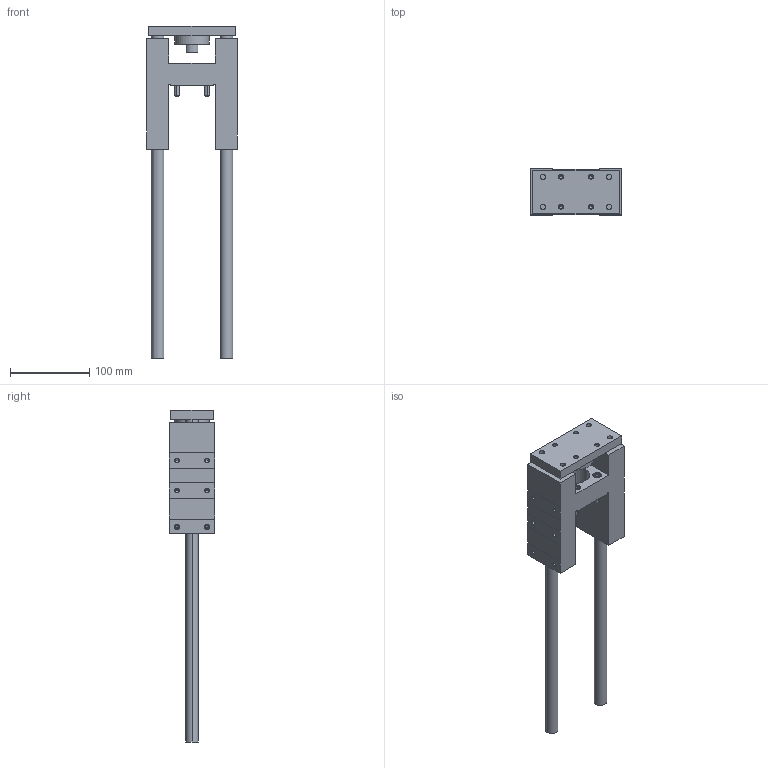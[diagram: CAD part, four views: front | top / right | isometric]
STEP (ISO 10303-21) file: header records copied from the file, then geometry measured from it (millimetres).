
FILE_DESCRIPTION (( 'STEP AP203' ), '1' );
FILE_NAME ('GB40-250.STEP', '2020-04-24T11:21:48', ( '' ), ( '' ), 'SwSTEP 2.0', 'SolidWorks 2019', '' );
FILE_SCHEMA (( 'CONFIG_CONTROL_DESIGN' ));
Length unit declared in the file: millimetre
Products named in the file (1): GB40-250
Bounding box: 115 x 58 x 420 mm (x, y, z)
Volume: 712141 mm3; surface area: 147605.6 mm2
Topology: 6 solids, 6 shells, 357 faces, 802 edges, 456 vertices
Faces by surface type: cone 142, plane 113, cylinder 102
Entity records: 10283 total; most frequent: CARTESIAN_POINT 2222, DIRECTION 1796, ORIENTED_EDGE 1532, EDGE_CURVE 766, AXIS2_PLACEMENT_3D 700, VERTEX_POINT 456, EDGE_LOOP 422, LINE 396
